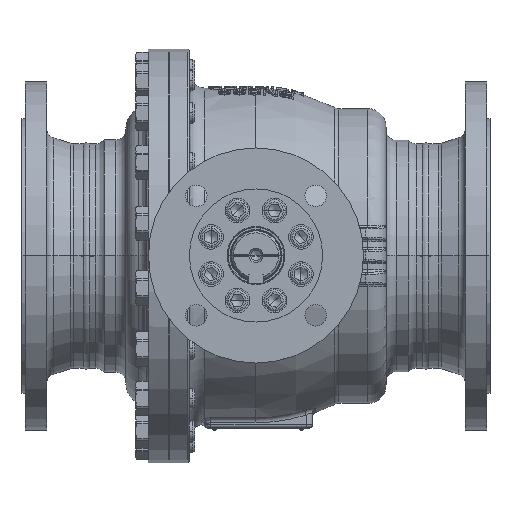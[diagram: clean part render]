
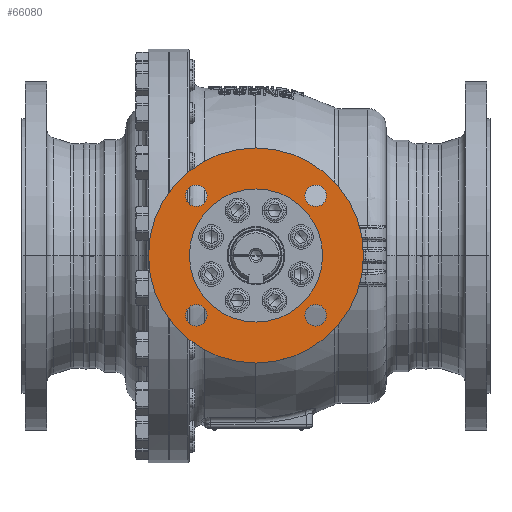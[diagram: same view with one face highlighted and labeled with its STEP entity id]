
A CAD part, top view. The second image highlights one B-rep face of the part: STEP entity #66080.
In plain terms, the highlighted planar face has unit normal (0, 0, 1).
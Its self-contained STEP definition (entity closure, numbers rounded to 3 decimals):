
#7818=CARTESIAN_POINT('',(0.,0.,274.));
#7819=DIRECTION('',(0.,0.,1.));
#7820=DIRECTION('',(0.,1.,0.));
#7821=AXIS2_PLACEMENT_3D('',#7818,#7819,#7820);
#7823=CARTESIAN_POINT('',(0.,0.,274.));
#7824=DIRECTION('',(0.,0.,-1.));
#7825=DIRECTION('',(0.,1.,0.));
#7826=AXIS2_PLACEMENT_3D('',#7823,#7824,#7825);
#7828=CARTESIAN_POINT('',(58.336,58.336,274.));
#7829=DIRECTION('',(0.,0.,-1.));
#7830=DIRECTION('',(0.,-1.,0.));
#7831=AXIS2_PLACEMENT_3D('',#7828,#7829,#7830);
#7833=CARTESIAN_POINT('',(58.336,58.336,274.));
#7834=DIRECTION('',(0.,0.,-1.));
#7835=DIRECTION('',(0.,1.,0.));
#7836=AXIS2_PLACEMENT_3D('',#7833,#7834,#7835);
#7838=CARTESIAN_POINT('',(58.336,-58.336,274.));
#7839=DIRECTION('',(0.,0.,-1.));
#7840=DIRECTION('',(-1.,0.,0.));
#7841=AXIS2_PLACEMENT_3D('',#7838,#7839,#7840);
#7843=CARTESIAN_POINT('',(58.336,-58.336,274.));
#7844=DIRECTION('',(0.,0.,-1.));
#7845=DIRECTION('',(1.,0.,0.));
#7846=AXIS2_PLACEMENT_3D('',#7843,#7844,#7845);
#7848=CARTESIAN_POINT('',(-58.336,-58.336,274.));
#7849=DIRECTION('',(0.,0.,-1.));
#7850=DIRECTION('',(0.,1.,0.));
#7851=AXIS2_PLACEMENT_3D('',#7848,#7849,#7850);
#7853=CARTESIAN_POINT('',(-58.336,-58.336,274.));
#7854=DIRECTION('',(0.,0.,-1.));
#7855=DIRECTION('',(0.,-1.,0.));
#7856=AXIS2_PLACEMENT_3D('',#7853,#7854,#7855);
#7858=CARTESIAN_POINT('',(-58.336,58.336,274.));
#7859=DIRECTION('',(0.,0.,-1.));
#7860=DIRECTION('',(1.,0.,0.));
#7861=AXIS2_PLACEMENT_3D('',#7858,#7859,#7860);
#7863=CARTESIAN_POINT('',(-58.336,58.336,274.));
#7864=DIRECTION('',(0.,0.,-1.));
#7865=DIRECTION('',(-1.,0.,0.));
#7866=AXIS2_PLACEMENT_3D('',#7863,#7864,#7865);
#7872=CARTESIAN_POINT('',(0.,0.,274.));
#7873=DIRECTION('',(0.,0.,-1.));
#7874=DIRECTION('',(0.,1.,0.));
#7875=AXIS2_PLACEMENT_3D('',#7872,#7873,#7874);
#7881=CARTESIAN_POINT('',(0.,0.,274.));
#7882=DIRECTION('',(0.,0.,1.));
#7883=DIRECTION('',(0.,1.,0.));
#7884=AXIS2_PLACEMENT_3D('',#7881,#7882,#7883);
#51496=CARTESIAN_POINT('',(0.,65.,274.));
#51498=VERTEX_POINT('',#51496);
#51500=CARTESIAN_POINT('',(0.,-65.,274.));
#51502=VERTEX_POINT('',#51500);
#51504=CARTESIAN_POINT('',(0.,105.,274.));
#51505=CARTESIAN_POINT('',(0.,-105.,274.));
#51506=VERTEX_POINT('',#51504);
#51507=VERTEX_POINT('',#51505);
#51576=CARTESIAN_POINT('',(58.336,47.836,274.));
#51577=CARTESIAN_POINT('',(58.336,68.836,274.));
#51578=VERTEX_POINT('',#51576);
#51579=VERTEX_POINT('',#51577);
#51580=CARTESIAN_POINT('',(47.836,-58.336,274.));
#51581=CARTESIAN_POINT('',(68.836,-58.336,274.));
#51582=VERTEX_POINT('',#51580);
#51583=VERTEX_POINT('',#51581);
#51584=CARTESIAN_POINT('',(-58.336,-47.836,274.));
#51585=CARTESIAN_POINT('',(-58.336,-68.836,274.));
#51586=VERTEX_POINT('',#51584);
#51587=VERTEX_POINT('',#51585);
#51588=CARTESIAN_POINT('',(-47.836,58.336,274.));
#51589=CARTESIAN_POINT('',(-68.836,58.336,274.));
#51590=VERTEX_POINT('',#51588);
#51591=VERTEX_POINT('',#51589);
#66041=CARTESIAN_POINT('',(0.,0.,274.));
#66042=DIRECTION('',(0.,0.,1.));
#66043=DIRECTION('',(0.,1.,0.));
#66044=AXIS2_PLACEMENT_3D('',#66041,#66042,#66043);
#66045=PLANE('',#66044);
#66046=ORIENTED_EDGE('',*,*,#66021,.F.);
#66047=ORIENTED_EDGE('',*,*,#66035,.T.);
#66048=EDGE_LOOP('',(#66046,#66047));
#66049=FACE_OUTER_BOUND('',#66048,.F.);
#66051=ORIENTED_EDGE('',*,*,#66050,.F.);
#66053=ORIENTED_EDGE('',*,*,#66052,.T.);
#66054=EDGE_LOOP('',(#66051,#66053));
#66055=FACE_BOUND('',#66054,.F.);
#66057=ORIENTED_EDGE('',*,*,#66056,.F.);
#66059=ORIENTED_EDGE('',*,*,#66058,.F.);
#66060=EDGE_LOOP('',(#66057,#66059));
#66061=FACE_BOUND('',#66060,.F.);
#66063=ORIENTED_EDGE('',*,*,#66062,.F.);
#66065=ORIENTED_EDGE('',*,*,#66064,.F.);
#66066=EDGE_LOOP('',(#66063,#66065));
#66067=FACE_BOUND('',#66066,.F.);
#66069=ORIENTED_EDGE('',*,*,#66068,.F.);
#66071=ORIENTED_EDGE('',*,*,#66070,.F.);
#66072=EDGE_LOOP('',(#66069,#66071));
#66073=FACE_BOUND('',#66072,.F.);
#66075=ORIENTED_EDGE('',*,*,#66074,.F.);
#66077=ORIENTED_EDGE('',*,*,#66076,.F.);
#66078=EDGE_LOOP('',(#66075,#66077));
#66079=FACE_BOUND('',#66078,.F.);
#66080=ADVANCED_FACE('',(#66049,#66055,#66061,#66067,#66073,#66079),#66045,.T.);
#7822=CIRCLE('',#7821,105.);
#7827=CIRCLE('',#7826,105.);
#7832=CIRCLE('',#7831,10.5);
#7837=CIRCLE('',#7836,10.5);
#7842=CIRCLE('',#7841,10.5);
#7847=CIRCLE('',#7846,10.5);
#7852=CIRCLE('',#7851,10.5);
#7857=CIRCLE('',#7856,10.5);
#7862=CIRCLE('',#7861,10.5);
#7867=CIRCLE('',#7866,10.5);
#7876=CIRCLE('',#7875,65.);
#7885=CIRCLE('',#7884,65.);
#66021=EDGE_CURVE('',#51506,#51507,#7822,.T.);
#66035=EDGE_CURVE('',#51506,#51507,#7827,.T.);
#66050=EDGE_CURVE('',#51498,#51502,#7876,.T.);
#66052=EDGE_CURVE('',#51498,#51502,#7885,.T.);
#66056=EDGE_CURVE('',#51578,#51579,#7832,.T.);
#66058=EDGE_CURVE('',#51579,#51578,#7837,.T.);
#66062=EDGE_CURVE('',#51582,#51583,#7842,.T.);
#66064=EDGE_CURVE('',#51583,#51582,#7847,.T.);
#66068=EDGE_CURVE('',#51586,#51587,#7852,.T.);
#66070=EDGE_CURVE('',#51587,#51586,#7857,.T.);
#66074=EDGE_CURVE('',#51590,#51591,#7862,.T.);
#66076=EDGE_CURVE('',#51591,#51590,#7867,.T.);
